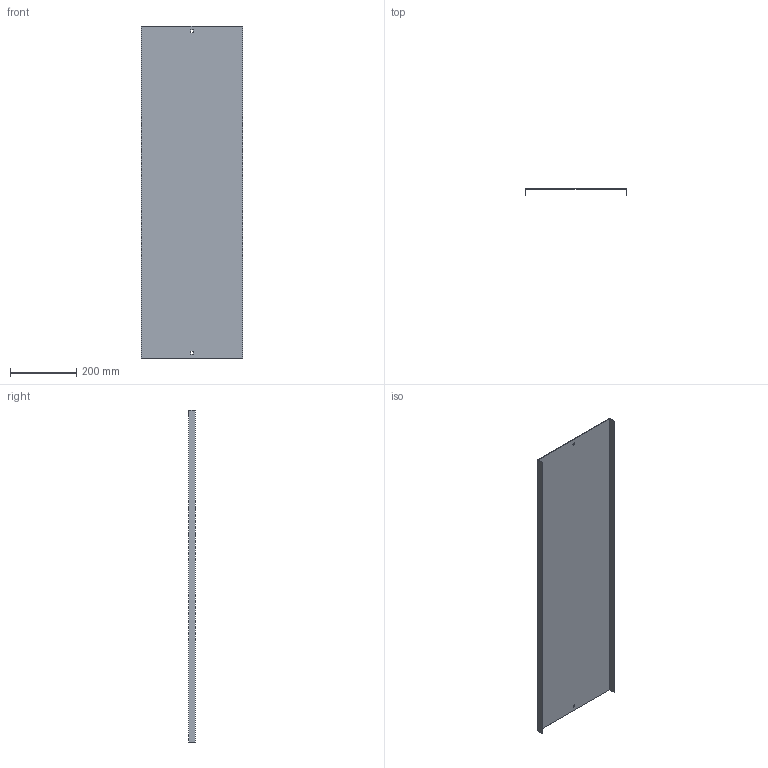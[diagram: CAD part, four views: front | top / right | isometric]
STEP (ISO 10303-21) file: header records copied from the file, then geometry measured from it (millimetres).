
FILE_DESCRIPTION (( 'STEP AP214' ), '1' );
FILE_NAME ('05G1R300.step', '2025-02-21T13:06:50', ( '' ), ( '' ), 'SwSTEP 2.0', 'SolidWorks 2023', '' );
FILE_SCHEMA (( 'AUTOMOTIVE_DESIGN' ));
Length unit declared in the file: millimetre
Products named in the file (1): 05G1R300
Bounding box: 307 x 20 x 1000 mm (x, y, z)
Volume: 515824.5 mm3; surface area: 691891 mm2
Topology: 1 solids, 1 shells, 18 faces, 48 edges, 32 vertices
Faces by surface type: plane 18
Entity records: 583 total; most frequent: CARTESIAN_POINT 99, ORIENTED_EDGE 96, DIRECTION 86, VECTOR 48, EDGE_CURVE 48, LINE 48, VERTEX_POINT 32, EDGE_LOOP 22
